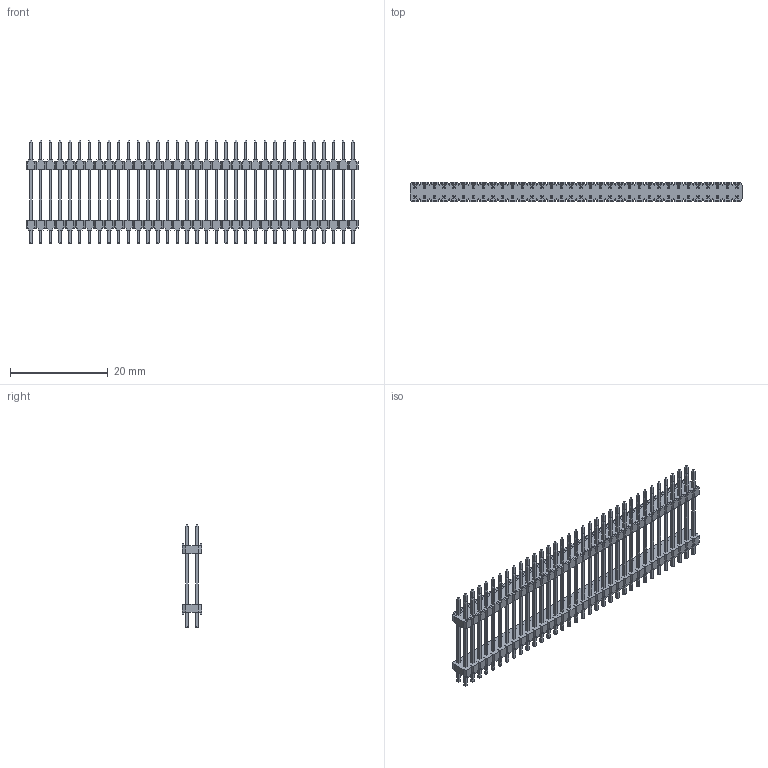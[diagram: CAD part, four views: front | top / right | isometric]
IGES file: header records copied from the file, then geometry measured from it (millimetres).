
Global section: file name: N:\GOLF_VI_2mm_UGII\9514XX_801XX06_AR\951468-8012506-AR.igs; native system: NX V3.0; preprocessor: UGS NX IGES V4.0; date: 20070314.081011; units: millimetre
Bounding box: 68 x 4 x 21.2 mm (x, y, z)
Surface area: 4205.8 mm2 (no closed solid volume)
Topology: 0 solids, 0 shells, 2456 faces, 12809 edges, 12809 vertices
Faces by surface type: bspline 2456
